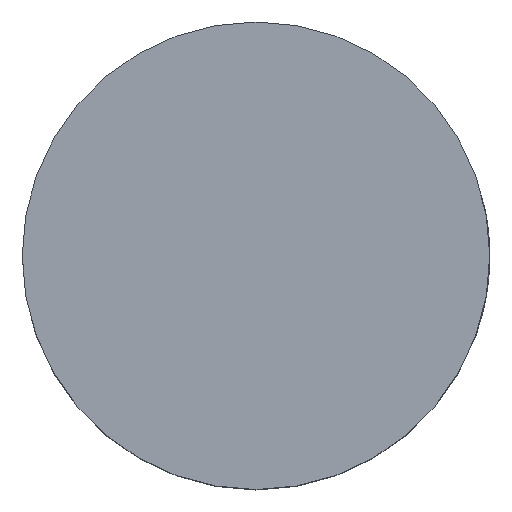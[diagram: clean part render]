
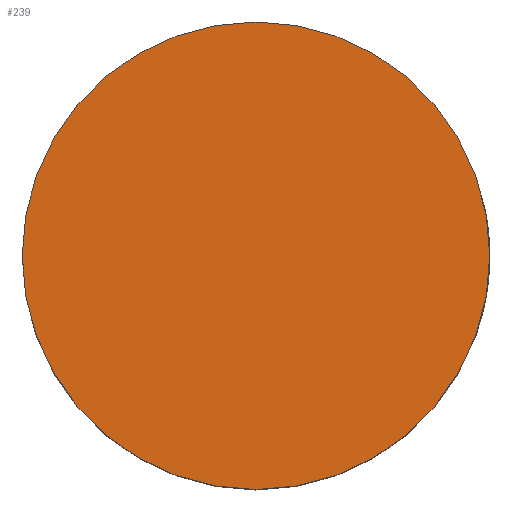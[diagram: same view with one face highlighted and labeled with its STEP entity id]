
A CAD part, top view. The second image highlights one B-rep face of the part: STEP entity #239.
In plain terms, the highlighted planar face has unit normal (0, 0, 1).
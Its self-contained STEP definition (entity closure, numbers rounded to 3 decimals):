
#73 = EDGE_CURVE ( 'NONE', #84, #87, #537, .T. ) ;
#84 = VERTEX_POINT ( 'NONE', #570 ) ;
#87 = VERTEX_POINT ( 'NONE', #565 ) ;
#183 = EDGE_CURVE ( 'NONE', #87, #84, #851, .T. ) ;
#239 = ADVANCED_FACE ( 'NONE', ( #991 ), #990, .F. ) ;
#240 = EDGE_LOOP ( 'NONE', ( #363, #1752 ) ) ;
#363 = ORIENTED_EDGE ( 'NONE', *, *, #73, .T. ) ;
#533 = DIRECTION ( 'NONE',  ( 1., 0., 0. ) ) ;
#534 = DIRECTION ( 'NONE',  ( 0., 0., 1. ) ) ;
#535 = CARTESIAN_POINT ( 'NONE',  ( 0., 0., 0. ) ) ;
#536 = AXIS2_PLACEMENT_3D ( 'NONE', #535, #534, #533 ) ;
#537 = CIRCLE ( 'NONE', #536, 12.55 ) ;
#565 = CARTESIAN_POINT ( 'NONE',  ( -12.55, 0., 0. ) ) ;
#570 = CARTESIAN_POINT ( 'NONE',  ( 12.55, 0., 0. ) ) ;
#847 = DIRECTION ( 'NONE',  ( 1., 0., 0. ) ) ;
#848 = DIRECTION ( 'NONE',  ( 0., 0., 1. ) ) ;
#849 = CARTESIAN_POINT ( 'NONE',  ( 0., 0., 0. ) ) ;
#850 = AXIS2_PLACEMENT_3D ( 'NONE', #849, #848, #847 ) ;
#851 = CIRCLE ( 'NONE', #850, 12.55 ) ;
#986 = DIRECTION ( 'NONE',  ( -1., 0., 0. ) ) ;
#987 = DIRECTION ( 'NONE',  ( 0., 0., -1. ) ) ;
#988 = CARTESIAN_POINT ( 'NONE',  ( 0., 0., 0. ) ) ;
#989 = AXIS2_PLACEMENT_3D ( 'NONE', #988, #987, #986 ) ;
#990 = PLANE ( 'NONE',  #989 ) ;
#991 = FACE_OUTER_BOUND ( 'NONE', #240, .T. ) ;
#1752 = ORIENTED_EDGE ( 'NONE', *, *, #183, .T. ) ;
